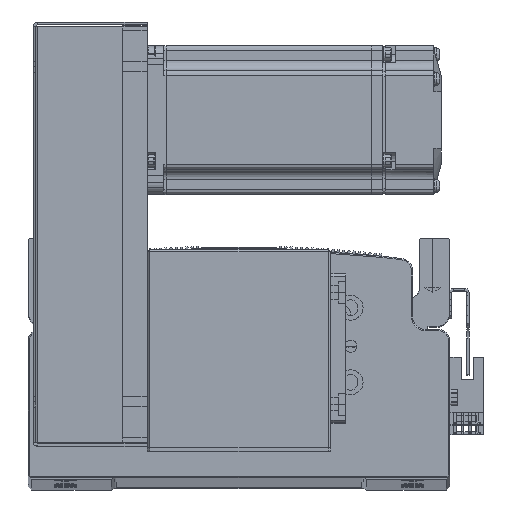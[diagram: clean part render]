
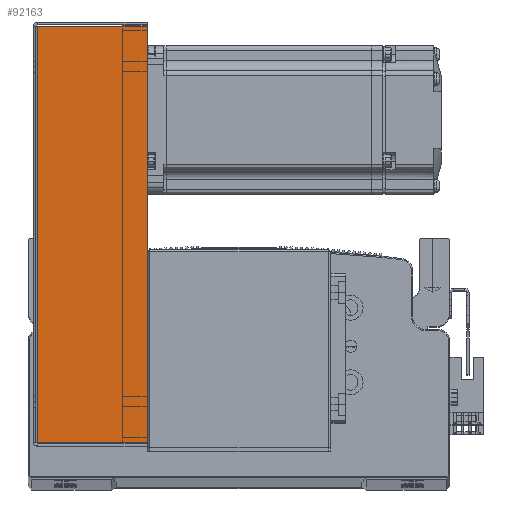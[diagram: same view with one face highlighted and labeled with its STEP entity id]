
A CAD part, top view. The second image highlights one B-rep face of the part: STEP entity #92163.
In plain terms, the highlighted planar face has unit normal (0, 0, 1) as drawn and (0, 0, -1) by its records, which use the part's own axes.
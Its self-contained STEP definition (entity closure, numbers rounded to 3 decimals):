
#23811 = VERTEX_POINT ( 'NONE', #80844 ) ;
#23819 = VERTEX_POINT ( 'NONE', #80799 ) ;
#23875 = VERTEX_POINT ( 'NONE', #81026 ) ;
#23930 = VERTEX_POINT ( 'NONE', #81049 ) ;
#26767 = EDGE_CURVE ( 'NONE', #23819, #23811, #71757, .T. ) ;
#26789 = EDGE_CURVE ( 'NONE', #23930, #23875, #71985, .T. ) ;
#26803 = EDGE_CURVE ( 'NONE', #23819, #23930, #71917, .T. ) ;
#26849 = EDGE_CURVE ( 'NONE', #23811, #23875, #72240, .T. ) ;
#35093 = ORIENTED_EDGE ( 'NONE', *, *, #26767, .T. ) ;
#35188 = ORIENTED_EDGE ( 'NONE', *, *, #26789, .F. ) ;
#35293 = ORIENTED_EDGE ( 'NONE', *, *, #26803, .F. ) ;
#35403 = ORIENTED_EDGE ( 'NONE', *, *, #26849, .T. ) ;
#56528 = FACE_OUTER_BOUND ( 'NONE', #89620, .T. ) ;
#61927 = CARTESIAN_POINT ( 'NONE',  ( 84.5, 45., -40.5 ) ) ;
#61949 = DIRECTION ( 'NONE',  ( 1., 0., 0. ) ) ;
#62902 = AXIS2_PLACEMENT_3D ( 'NONE', #64315, #64276, #64306 ) ;
#64276 = DIRECTION ( 'NONE',  ( 0., 0., 1. ) ) ;
#64280 = PLANE ( 'NONE',  #62902 ) ;
#64306 = DIRECTION ( 'NONE',  ( 0., -1., 0. ) ) ;
#64315 = CARTESIAN_POINT ( 'NONE',  ( 0., 0., -40.5 ) ) ;
#70768 = DIRECTION ( 'NONE',  ( 0., 1., 0. ) ) ;
#70782 = CARTESIAN_POINT ( 'NONE',  ( -83.793, 0., -40.5 ) ) ;
#70788 = DIRECTION ( 'NONE',  ( 0., 1., 0. ) ) ;
#70817 = CARTESIAN_POINT ( 'NONE',  ( 83.793, 0., -40.5 ) ) ;
#70845 = DIRECTION ( 'NONE',  ( 1., 0., 0. ) ) ;
#70865 = CARTESIAN_POINT ( 'NONE',  ( 0., 0.737, -40.5 ) ) ;
#71757 = LINE ( 'NONE', #70782, #71779 ) ;
#71779 = VECTOR ( 'NONE', #70768, 1000. ) ;
#71917 = LINE ( 'NONE', #70865, #71929 ) ;
#71929 = VECTOR ( 'NONE', #70845, 1000. ) ;
#71967 = VECTOR ( 'NONE', #70788, 1000. ) ;
#71985 = LINE ( 'NONE', #70817, #71967 ) ;
#72215 = VECTOR ( 'NONE', #61949, 1000. ) ;
#72240 = LINE ( 'NONE', #61927, #72215 ) ;
#80799 = CARTESIAN_POINT ( 'NONE',  ( -83.793, 0.737, -40.5 ) ) ;
#80844 = CARTESIAN_POINT ( 'NONE',  ( -83.793, 45., -40.5 ) ) ;
#81026 = CARTESIAN_POINT ( 'NONE',  ( 83.793, 45., -40.5 ) ) ;
#81049 = CARTESIAN_POINT ( 'NONE',  ( 83.793, 0.737, -40.5 ) ) ;
#89620 = EDGE_LOOP ( 'NONE', ( #35293, #35093, #35403, #35188 ) ) ;
#92163 = ADVANCED_FACE ( 'NONE', ( #56528 ), #64280, .F. ) ;
